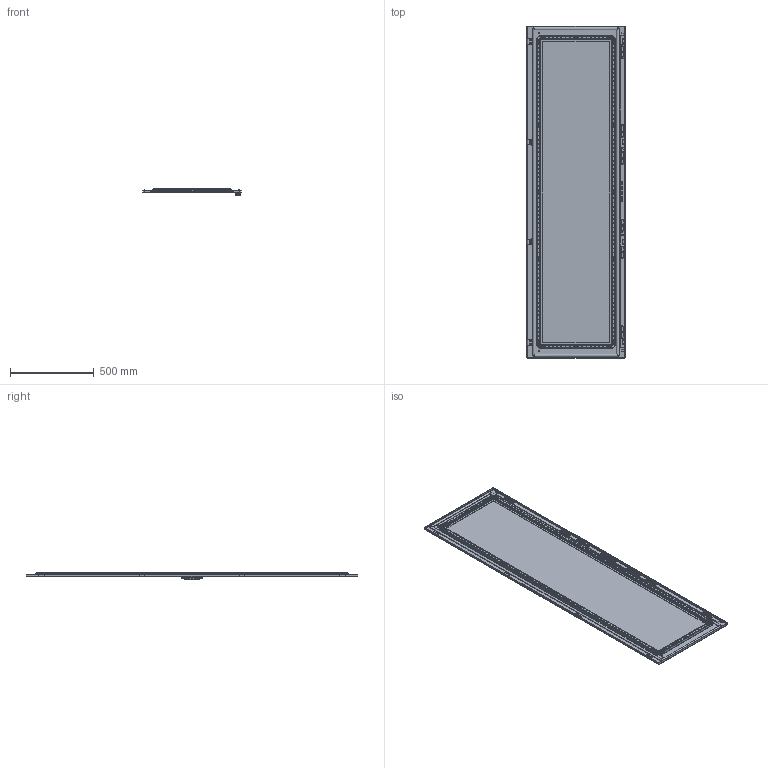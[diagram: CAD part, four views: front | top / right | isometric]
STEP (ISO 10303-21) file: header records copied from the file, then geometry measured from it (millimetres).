
FILE_DESCRIPTION(('STEP AP203'), '1');
FILE_NAME('Äâåðü îáçîðíàÿ ñî ñòåêëîì 2000õ600 ìì OptiBox M 419785 ÊÝÀÇ', '', ('UNSPECIFIED'), ('UNSPECIFIED'), 'C3D Converter', 'C3D Toolkit', '');
FILE_SCHEMA(('CONFIG_CONTROL_DESIGN'));
Length unit declared in the file: millimetre
Bounding box: 586.4 x 1986.4 x 42.45 mm (x, y, z)
Volume: 5264205 mm3; surface area: 3674129.3 mm2
Topology: 63 solids, 63 shells, 5632 faces, 14005 edges, 8255 vertices
Faces by surface type: plane 2447, cylinder 2031, sphere 424, bspline 324, torus 266, cone 140
Full cylindrical faces by diameter (mm): 0.75 x18, 1 x32, 1.3 x6, 1.6 x4, 4 x2, 4.2 x2, 4.5 x2, 4.6 x176, 5 x16, 5.2 x1, 6 x25, 6.4 x16, 7 x8, 7.5 x24, 8 x16, 8.5 x1, 9 x18, 11 x2, 13.05 x1, 16.3 x1, 20.7 x1
Entity records: 260139 total; most frequent: CARTESIAN_POINT 86232, ORIENTED_EDGE 26376, DIRECTION 26218, EDGE_CURVE 13188, AXIS2_PLACEMENT_3D 9410, VERTEX_POINT 8235, LINE 7398, VECTOR 7398
